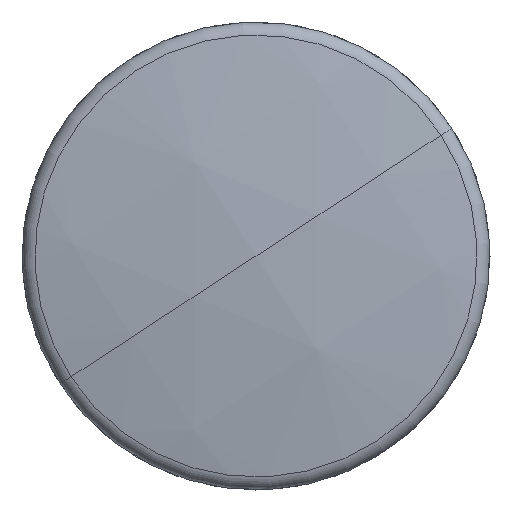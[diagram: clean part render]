
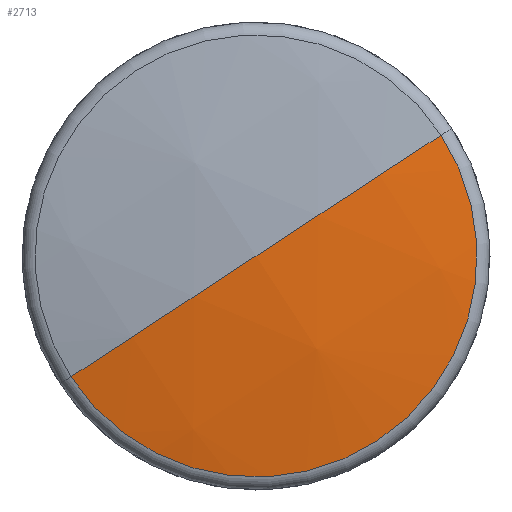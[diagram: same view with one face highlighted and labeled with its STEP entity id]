
A CAD part, front view. The second image highlights one B-rep face of the part: STEP entity #2713.
In plain terms, the highlighted spherical face has radius 83 mm.
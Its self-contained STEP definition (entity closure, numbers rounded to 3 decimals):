
#2713 = ADVANCED_FACE ( 'NONE', ( #7404 ), #7431, .T. ) ;
#7404 = FACE_OUTER_BOUND ( 'NONE', #22651, .T. ) ;
#7431 = SPHERICAL_SURFACE ( 'NONE', #7678, 83. ) ;
#7464 = AXIS2_PLACEMENT_3D ( 'NONE', #8970, #8995, #9000 ) ;
#7474 = AXIS2_PLACEMENT_3D ( 'NONE', #8856, #8857, #8837 ) ;
#7517 = AXIS2_PLACEMENT_3D ( 'NONE', #14759, #14767, #14752 ) ;
#7678 = AXIS2_PLACEMENT_3D ( 'NONE', #13522, #13505, #13515 ) ;
#8500 = CARTESIAN_POINT ( 'NONE',  ( -14.171, 5.831, 0. ) ) ;
#8510 = CARTESIAN_POINT ( 'NONE',  ( 0., 7.05, 0. ) ) ;
#8745 = CARTESIAN_POINT ( 'NONE',  ( 14.171, 5.831, 0. ) ) ;
#8837 = DIRECTION ( 'NONE',  ( 1., 0., 0. ) ) ;
#8856 = CARTESIAN_POINT ( 'NONE',  ( 0., 5.831, 0. ) ) ;
#8857 = DIRECTION ( 'NONE',  ( 0., -1., 0. ) ) ;
#8970 = CARTESIAN_POINT ( 'NONE',  ( 0., -75.95, 0. ) ) ;
#8995 = DIRECTION ( 'NONE',  ( 0., 0., 1. ) ) ;
#9000 = DIRECTION ( 'NONE',  ( 1., 0., 0. ) ) ;
#9777 = VERTEX_POINT ( 'NONE', #8510 ) ;
#9784 = VERTEX_POINT ( 'NONE', #8500 ) ;
#10038 = ORIENTED_EDGE ( 'NONE', *, *, #16533, .T. ) ;
#10084 = ORIENTED_EDGE ( 'NONE', *, *, #16242, .F. ) ;
#10093 = ORIENTED_EDGE ( 'NONE', *, *, #16277, .F. ) ;
#10730 = VERTEX_POINT ( 'NONE', #8745 ) ;
#13505 = DIRECTION ( 'NONE',  ( 0., 0., -1. ) ) ;
#13515 = DIRECTION ( 'NONE',  ( -1., 0., 0. ) ) ;
#13522 = CARTESIAN_POINT ( 'NONE',  ( 0., -75.95, 0. ) ) ;
#14752 = DIRECTION ( 'NONE',  ( -1., 0., 0. ) ) ;
#14759 = CARTESIAN_POINT ( 'NONE',  ( 0., -75.95, 0. ) ) ;
#14767 = DIRECTION ( 'NONE',  ( 0., 0., -1. ) ) ;
#16242 = EDGE_CURVE ( 'NONE', #9784, #10730, #16629, .T. ) ;
#16277 = EDGE_CURVE ( 'NONE', #9777, #9784, #16706, .T. ) ;
#16533 = EDGE_CURVE ( 'NONE', #9777, #10730, #16846, .T. ) ;
#16629 = CIRCLE ( 'NONE', #7474, 14.171 ) ;
#16706 = CIRCLE ( 'NONE', #7464, 83. ) ;
#16846 = CIRCLE ( 'NONE', #7517, 83. ) ;
#22651 = EDGE_LOOP ( 'NONE', ( #10093, #10038, #10084 ) ) ;
